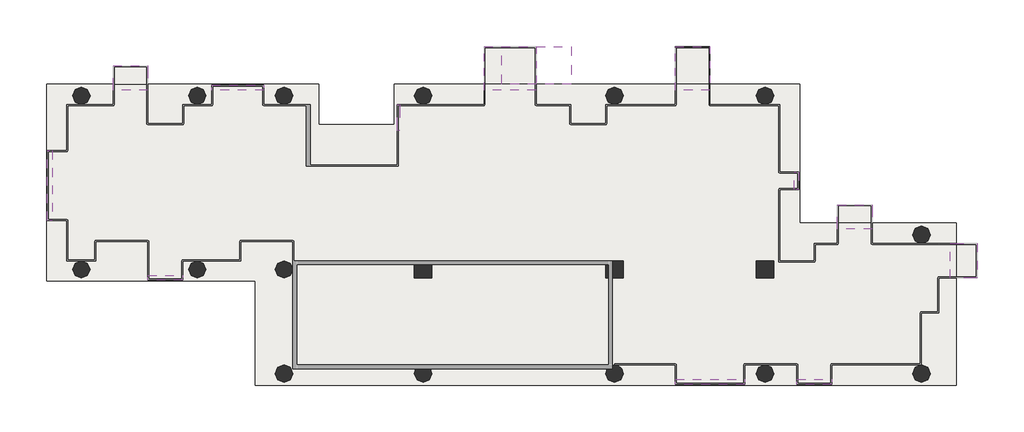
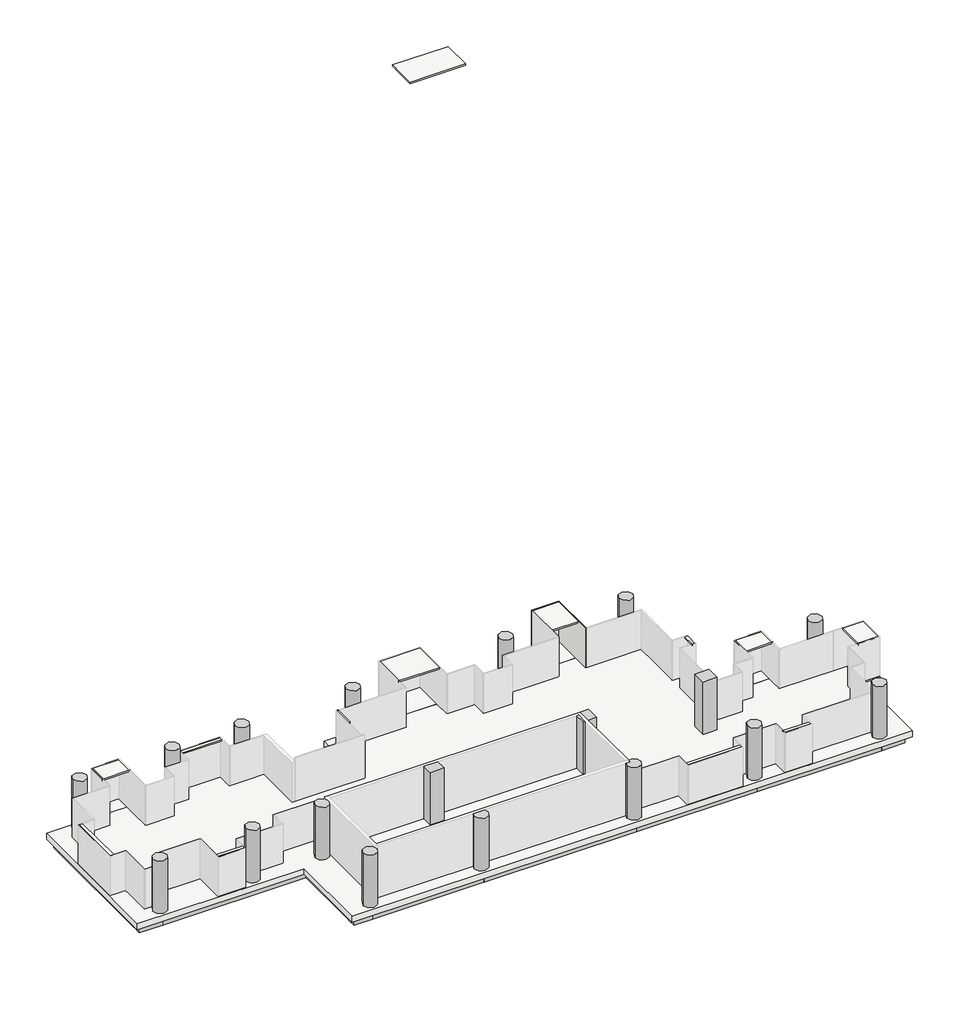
# One storey, part 2 of 2: 40 slabs, 25 beams, 18 columns, 2 walls.
"""IFC4 building model written with IfcOpenShell, lengths in millimetres."""

from ifc_helpers import new_model, si_unit, point, frame, frame_2d, origin, place, context, project, spatial, polyline, circle_curve, trimmed, segment, composite_curve, outline, extrude, faceted_brep, transform, mapped, element, save
from ifc_brep_helpers import plane_surface, cylinder_surface, advanced_brep
from components import ajn_arc_ossature_rec_ba_700x600_5242ffbb, ajn_arc_ossature_rec_ba_700x600_213c05e2, ajn_arc_ossature_rec_ba_700x600_4d623bda, ajn_arc_ossature_rec_ba_700x600_c2a8f1af, ajn_arc_ossature_rec_ba_700x600_b2f97811, ajn_arc_ossature_rec_ba_700x600_e688680c, ajn_arc_ossature_rec_ba_700x600_8adee879, ajn_arc_ossature_rec_ba_700x600_6677e51c, ajn_arc_ossature_rec_ba_700x600_60e35d56, ajn_arc_ossature_rec_ba_700x600_9ae0f913, ajn_arc_ossature_rec_ba_700x600_5c14351b, ajn_arc_ossature_rec_ba_700x600_e883967f, ajn_arc_ossature_rec_ba_700x600_0984b03c, ajn_arc_ossature_rec_ba_700x600_78f846f2, ajn_arc_ossature_rec_ba_700x600_e869caa8, ajn_arc_ossature_rec_ba_700x600_0388eb48, ajn_arc_ossature_rec_ba_700x600_e143517c, ajn_arc_ossature_rec_ba_700x600_758f1bfa, ajn_arc_ossature_rec_ba_700x600_64ba80e1

model = new_model("IFC4")

# Units and contexts
model_context = context("Model", 3, world=origin())
ifc_project = project(units=[si_unit("LENGTHUNIT", "METRE", prefix="MILLI")], contexts=[model_context])

# Site, building, storey
site = spatial("IfcSite", under=ifc_project)
building = spatial("IfcBuilding", under=site)
storey = spatial("IfcBuildingStorey", under=building, Name="TW-L 06", Elevation=20799.9999686)

# Beams
placement = place(None, origin())
ajn_arc_ossature_rec_ba_700x600_shape = ajn_arc_ossature_rec_ba_700x600_5242ffbb(model_context)
element("IfcBeam", 1, ObjectType="AJN-ARC-OSSATURE REC-BA : 700x600", at=placement, inside=storey, context=model_context, shape_type="MappedRepresentation", body=[
    mapped(ajn_arc_ossature_rec_ba_700x600_shape, transform((119350.0, 39300.0, 20249.9999686), x_axis=(-1.0, 0.0, 0.0), y_axis=(0.0, -1.0, 0.0), z_axis=(0.0, 0.0, 1.0))),
])
ajn_arc_ossature_rec_ba_700x600_2_shape = ajn_arc_ossature_rec_ba_700x600_213c05e2(model_context)
element("IfcBeam", 2, ObjectType="AJN-ARC-OSSATURE REC-BA : 700x600", at=placement, inside=storey, context=model_context, shape_type="MappedRepresentation", body=[
    mapped(ajn_arc_ossature_rec_ba_700x600_2_shape, transform((100900.0, 34800.0, 20249.9999686), x_axis=(0.0, -1.0, 0.0), y_axis=(1.0, 0.0, 0.0), z_axis=(0.0, 0.0, 1.0))),
])
ajn_arc_ossature_rec_ba_700x600_3_shape = ajn_arc_ossature_rec_ba_700x600_4d623bda(model_context)
element("IfcBeam", 3, ObjectType="AJN-ARC-OSSATURE REC-BA : 700x600", at=placement, inside=storey, context=model_context, shape_type="MappedRepresentation", body=[
    mapped(ajn_arc_ossature_rec_ba_700x600_3_shape, transform((112150.0, 24900.0, 20249.9999686), x_axis=(1.0, 0.0, 0.0), y_axis=(0.0, 1.0, 0.0), z_axis=(0.0, 0.0, 1.0))),
])
ajn_arc_ossature_rec_ba_700x600_4_shape = ajn_arc_ossature_rec_ba_700x600_c2a8f1af(model_context)
element("IfcBeam", 4, ObjectType="AJN-ARC-OSSATURE REC-BA : 700x600", at=placement, inside=storey, context=model_context, shape_type="MappedRepresentation", body=[
    mapped(ajn_arc_ossature_rec_ba_700x600_4_shape, transform((116200.0, 24900.0, 20249.9999686), x_axis=(1.0, 0.0, 0.0), y_axis=(0.0, 1.0, 0.0), z_axis=(0.0, 0.0, 1.0))),
])
ajn_arc_ossature_rec_ba_700x600_5_shape = ajn_arc_ossature_rec_ba_700x600_b2f97811(model_context)
element("IfcBeam", 5, ObjectType="AJN-ARC-OSSATURE REC-BA : 700x600", at=placement, inside=storey, context=model_context, shape_type="MappedRepresentation", body=[
    mapped(ajn_arc_ossature_rec_ba_700x600_5_shape, transform((106900.0, 30300.0, 20249.9999686), x_axis=(1.0, 0.0, 0.0), y_axis=(0.0, 1.0, 0.0), z_axis=(0.0, 0.0, 1.0))),
])
ajn_arc_ossature_rec_ba_700x600_6_shape = ajn_arc_ossature_rec_ba_700x600_e688680c(model_context)
element("IfcBeam", 6, ObjectType="AJN-ARC-OSSATURE REC-BA : 700x600", at=placement, inside=storey, context=model_context, shape_type="MappedRepresentation", body=[
    mapped(ajn_arc_ossature_rec_ba_700x600_6_shape, transform((111700.0, 27600.0, 20249.9999686), x_axis=(0.0, -1.0, 0.0), y_axis=(1.0, 0.0, 0.0), z_axis=(0.0, 0.0, 1.0))),
])
ajn_arc_ossature_rec_ba_700x600_7_shape = ajn_arc_ossature_rec_ba_700x600_8adee879(model_context)
element("IfcBeam", 7, ObjectType="AJN-ARC-OSSATURE REC-BA : 700x600", at=placement, inside=storey, context=model_context, shape_type="MappedRepresentation", body=[
    mapped(ajn_arc_ossature_rec_ba_700x600_7_shape, transform((124750.0, 24900.0, 20249.9999686), x_axis=(1.0, 0.0, 0.0), y_axis=(0.0, 1.0, 0.0), z_axis=(0.0, 0.0, 1.0))),
])
element("IfcBeam", 8, ObjectType="AJN-ARC-OSSATURE REC-BA : 700x600", at=placement, inside=storey, context=model_context, shape_type="MappedRepresentation", body=[
    mapped(ajn_arc_ossature_rec_ba_700x600_7_shape, transform((124750.0, 39300.0, 20249.9999686), x_axis=(-1.0, 0.0, 0.0), y_axis=(0.0, -1.0, 0.0), z_axis=(0.0, 0.0, 1.0))),
])
ajn_arc_ossature_rec_ba_700x600_8_shape = ajn_arc_ossature_rec_ba_700x600_6677e51c(model_context)
element("IfcBeam", 9, ObjectType="AJN-ARC-OSSATURE REC-BA : 700x600", at=placement, inside=storey, context=model_context, shape_type="MappedRepresentation", body=[
    mapped(ajn_arc_ossature_rec_ba_700x600_8_shape, transform((133600.0, 24900.0, 20249.9999686), x_axis=(1.0, 0.0, 0.0), y_axis=(0.0, 1.0, 0.0), z_axis=(0.0, 0.0, 1.0))),
])
ajn_arc_ossature_rec_ba_700x600_9_shape = ajn_arc_ossature_rec_ba_700x600_60e35d56(model_context)
element("IfcBeam", 10, ObjectType="AJN-ARC-OSSATURE REC-BA : 700x600", at=placement, inside=storey, context=model_context, shape_type="MappedRepresentation", body=[
    mapped(ajn_arc_ossature_rec_ba_700x600_9_shape, transform((141550.0, 24900.0, 20249.9999686), x_axis=(1.0, 0.0, 0.0), y_axis=(0.0, 1.0, 0.0), z_axis=(0.0, 0.0, 1.0))),
])
ajn_arc_ossature_rec_ba_700x600_10_shape = ajn_arc_ossature_rec_ba_700x600_9ae0f913(model_context)
element("IfcBeam", 11, ObjectType="AJN-ARC-OSSATURE REC-BA : 700x600", at=placement, inside=storey, context=model_context, shape_type="MappedRepresentation", body=[
    mapped(ajn_arc_ossature_rec_ba_700x600_10_shape, transform((146200.0, 24900.0, 20249.9999686), x_axis=(1.0, 0.0, 0.0), y_axis=(0.0, 1.0, 0.0), z_axis=(0.0, 0.0, 1.0))),
])
element("IfcBeam", 12, ObjectType="AJN-ARC-OSSATURE REC-BA : 700x600", at=placement, inside=storey, context=model_context, shape_type="MappedRepresentation", body=[
    mapped(ajn_arc_ossature_rec_ba_700x600_10_shape, transform((101500.0, 39300.0, 20249.9999686), x_axis=(-1.0, 0.0, 0.0), y_axis=(0.0, -1.0, 0.0), z_axis=(0.0, 0.0, 1.0))),
])
ajn_arc_ossature_rec_ba_700x600_11_shape = ajn_arc_ossature_rec_ba_700x600_5c14351b(model_context)
element("IfcBeam", 13, ObjectType="AJN-ARC-OSSATURE REC-BA : 700x600", at=placement, inside=storey, context=model_context, shape_type="MappedRepresentation", body=[
    mapped(ajn_arc_ossature_rec_ba_700x600_11_shape, transform((146800.0, 28500.0, 20249.9999686), x_axis=(0.0, 1.0, 0.0), y_axis=(-1.0, 0.0, 0.0), z_axis=(0.0, 0.0, 1.0))),
])
element("IfcBeam", 14, ObjectType="AJN-ARC-OSSATURE REC-BA : 700x600", at=placement, inside=storey, context=model_context, shape_type="MappedRepresentation", body=[
    mapped(ajn_arc_ossature_rec_ba_700x600_11_shape, transform((138700.0, 35700.0, 20249.9999686), x_axis=(0.0, 1.0, 0.0), y_axis=(-1.0, 0.0, 0.0), z_axis=(0.0, 0.0, 1.0))),
])
ajn_arc_ossature_rec_ba_700x600_12_shape = ajn_arc_ossature_rec_ba_700x600_e883967f(model_context)
element("IfcBeam", 15, ObjectType="AJN-ARC-OSSATURE REC-BA : 700x600", at=placement, inside=storey, context=model_context, shape_type="MappedRepresentation", body=[
    mapped(ajn_arc_ossature_rec_ba_700x600_12_shape, transform((146200.0, 32100.0, 20249.9999686), x_axis=(-1.0, 0.0, 0.0), y_axis=(0.0, -1.0, 0.0), z_axis=(0.0, 0.0, 1.0))),
])
element("IfcBeam", 16, ObjectType="AJN-ARC-OSSATURE REC-BA : 700x600", at=placement, inside=storey, context=model_context, shape_type="MappedRepresentation", body=[
    mapped(ajn_arc_ossature_rec_ba_700x600_12_shape, transform((138100.0, 39300.0, 20249.9999686), x_axis=(-1.0, 0.0, 0.0), y_axis=(0.0, -1.0, 0.0), z_axis=(0.0, 0.0, 1.0))),
])
element("IfcBeam", 17, ObjectType="AJN-ARC-OSSATURE REC-BA : 700x600", at=placement, inside=storey, context=model_context, shape_type="MappedRepresentation", body=[
    mapped(ajn_arc_ossature_rec_ba_700x600_12_shape, transform((113200.0, 39300.0, 20249.9999686), x_axis=(-1.0, 0.0, 0.0), y_axis=(0.0, -1.0, 0.0), z_axis=(0.0, 0.0, 1.0))),
])
element("IfcBeam", 18, ObjectType="AJN-ARC-OSSATURE REC-BA : 700x600", at=placement, inside=storey, context=model_context, shape_type="MappedRepresentation", body=[
    mapped(ajn_arc_ossature_rec_ba_700x600_12_shape, transform((101500.0, 30300.0, 20249.9999686), x_axis=(1.0, 0.0, 0.0), y_axis=(0.0, 1.0, 0.0), z_axis=(0.0, 0.0, 1.0))),
])
ajn_arc_ossature_rec_ba_700x600_13_shape = ajn_arc_ossature_rec_ba_700x600_0984b03c(model_context)
element("IfcBeam", 19, ObjectType="AJN-ARC-OSSATURE REC-BA : 700x600", at=placement, inside=storey, context=model_context, shape_type="MappedRepresentation", body=[
    mapped(ajn_arc_ossature_rec_ba_700x600_13_shape, transform((142150.0, 32100.0, 20249.9999686), x_axis=(-1.0, 0.0, 0.0), y_axis=(0.0, -1.0, 0.0), z_axis=(0.0, 0.0, 1.0))),
])
ajn_arc_ossature_rec_ba_700x600_14_shape = ajn_arc_ossature_rec_ba_700x600_78f846f2(model_context)
element("IfcBeam", 20, ObjectType="AJN-ARC-OSSATURE REC-BA : 700x600", at=placement, inside=storey, context=model_context, shape_type="MappedRepresentation", body=[
    mapped(ajn_arc_ossature_rec_ba_700x600_14_shape, transform((133600.0, 39300.0, 20249.9999686), x_axis=(-1.0, 0.0, 0.0), y_axis=(0.0, -1.0, 0.0), z_axis=(0.0, 0.0, 1.0))),
])
ajn_arc_ossature_rec_ba_700x600_15_shape = ajn_arc_ossature_rec_ba_700x600_e869caa8(model_context)
element("IfcBeam", 21, ObjectType="AJN-ARC-OSSATURE REC-BA : 700x600", at=placement, inside=storey, context=model_context, shape_type="MappedRepresentation", body=[
    mapped(ajn_arc_ossature_rec_ba_700x600_15_shape, transform((118900.0, 38250.0, 20249.9999686), x_axis=(0.0, -1.0, 0.0), y_axis=(1.0, 0.0, 0.0), z_axis=(0.0, 0.0, 1.0))),
])
ajn_arc_ossature_rec_ba_700x600_16_shape = ajn_arc_ossature_rec_ba_700x600_0388eb48(model_context)
element("IfcBeam", 22, ObjectType="AJN-ARC-OSSATURE REC-BA : 700x600", at=placement, inside=storey, context=model_context, shape_type="MappedRepresentation", body=[
    mapped(ajn_arc_ossature_rec_ba_700x600_16_shape, transform((110350.0, 39300.0, 20249.9999686), x_axis=(-1.0, 0.0, 0.0), y_axis=(0.0, -1.0, 0.0), z_axis=(0.0, 0.0, 1.0))),
])
ajn_arc_ossature_rec_ba_700x600_17_shape = ajn_arc_ossature_rec_ba_700x600_e143517c(model_context)
element("IfcBeam", 23, ObjectType="AJN-ARC-OSSATURE REC-BA : 700x600", at=placement, inside=storey, context=model_context, shape_type="MappedRepresentation", body=[
    mapped(ajn_arc_ossature_rec_ba_700x600_17_shape, transform((105100.0, 39300.0, 20249.9999686), x_axis=(-1.0, 0.0, 0.0), y_axis=(0.0, -1.0, 0.0), z_axis=(0.0, 0.0, 1.0))),
])
ajn_arc_ossature_rec_ba_700x600_18_shape = ajn_arc_ossature_rec_ba_700x600_758f1bfa(model_context)
element("IfcBeam", 24, ObjectType="AJN-ARC-OSSATURE REC-BA : 700x600", at=placement, inside=storey, context=model_context, shape_type="MappedRepresentation", body=[
    mapped(ajn_arc_ossature_rec_ba_700x600_18_shape, transform((116350.0, 37200.0, 20249.9999686), x_axis=(-1.0, 0.0, 0.0), y_axis=(0.0, -1.0, 0.0), z_axis=(0.0, 0.0, 1.0))),
])
ajn_arc_ossature_rec_ba_700x600_19_shape = ajn_arc_ossature_rec_ba_700x600_64ba80e1(model_context)
element("IfcBeam", 25, ObjectType="AJN-ARC-OSSATURE REC-BA : 700x600", at=placement, inside=storey, context=model_context, shape_type="MappedRepresentation", body=[
    mapped(ajn_arc_ossature_rec_ba_700x600_19_shape, transform((113800.0, 38250.0, 20249.9999686), x_axis=(0.0, 1.0, 0.0), y_axis=(-1.0, 0.0, 0.0), z_axis=(0.0, 0.0, 1.0))),
])

# Columns
element("IfcColumn", 26, ObjectType="AJN-ARC-POTEAU CIRCULAIRE : ø90", at=placement, inside=storey, context=model_context, shape_type="SweptSolid", body=[
    extrude(outline(composite_curve([segment(trimmed(circle_curve(frame_2d((102100.0, 39300.0)), 450.0), [point((101650.0, 39300.0))], [point((102550.0, 39300.0))], False, "CARTESIAN"), True, "CONTINUOUS"), segment(trimmed(circle_curve(frame_2d((102100.0, 39300.0)), 450.0), [point((102550.0, 39300.0))], [point((101650.0, 39300.0))], False, "CARTESIAN"), True, "CONTINUOUS")], self_intersect=False)), frame((0.0, 0.0, 20799.9999686), z_axis=(0.0, 0.0, 1.0), x_axis=(1.0, 0.0, 0.0)), (0.0, 0.0, 1.0), 3600.0),
])
element("IfcColumn", 27, ObjectType="AJN-ARC-POTEAU CIRCULAIRE : ø90", at=placement, inside=storey, context=model_context, shape_type="SweptSolid", body=[
    extrude(outline(composite_curve([segment(trimmed(circle_curve(frame_2d((102100.0, 30300.0)), 450.0), [point((101650.0, 30300.0))], [point((102550.0, 30300.0))], False, "CARTESIAN"), True, "CONTINUOUS"), segment(trimmed(circle_curve(frame_2d((102100.0, 30300.0)), 450.0), [point((102550.0, 30300.0))], [point((101650.0, 30300.0))], False, "CARTESIAN"), True, "CONTINUOUS")], self_intersect=False)), frame((0.0, 0.0, 20799.9999686), z_axis=(0.0, 0.0, 1.0), x_axis=(1.0, 0.0, 0.0)), (0.0, 0.0, 1.0), 3600.0),
])
element("IfcColumn", 28, ObjectType="AJN-ARC-POTEAU CIRCULAIRE : ø90", at=placement, inside=storey, context=model_context, shape_type="SweptSolid", body=[
    extrude(outline(composite_curve([segment(trimmed(circle_curve(frame_2d((108100.0, 30300.0)), 450.0), [point((107650.0, 30300.0))], [point((108550.0, 30300.0))], False, "CARTESIAN"), True, "CONTINUOUS"), segment(trimmed(circle_curve(frame_2d((108100.0, 30300.0)), 450.0), [point((108550.0, 30300.0))], [point((107650.0, 30300.0))], False, "CARTESIAN"), True, "CONTINUOUS")], self_intersect=False)), frame((0.0, 0.0, 20799.9999686), z_axis=(0.0, 0.0, 1.0), x_axis=(1.0, 0.0, 0.0)), (0.0, 0.0, 1.0), 3600.0),
])
element("IfcColumn", 29, ObjectType="AJN-ARC-POTEAU CIRCULAIRE : ø90", at=placement, inside=storey, context=model_context, shape_type="SweptSolid", body=[
    extrude(outline(composite_curve([segment(trimmed(circle_curve(frame_2d((108100.0, 39300.0)), 450.0), [point((107650.0, 39300.0))], [point((108550.0, 39300.0))], False, "CARTESIAN"), True, "CONTINUOUS"), segment(trimmed(circle_curve(frame_2d((108100.0, 39300.0)), 450.0), [point((108550.0, 39300.0))], [point((107650.0, 39300.0))], False, "CARTESIAN"), True, "CONTINUOUS")], self_intersect=False)), frame((0.0, 0.0, 20799.9999686), z_axis=(0.0, 0.0, 1.0), x_axis=(1.0, 0.0, 0.0)), (0.0, 0.0, 1.0), 3600.0),
])
element("IfcColumn", 30, ObjectType="AJN-ARC-POTEAU CIRCULAIRE : ø90", at=placement, inside=storey, context=model_context, shape_type="SweptSolid", body=[
    extrude(outline(composite_curve([segment(trimmed(circle_curve(frame_2d((112600.0, 39300.0)), 450.0), [point((112150.0, 39300.0))], [point((113050.0, 39300.0))], False, "CARTESIAN"), True, "CONTINUOUS"), segment(trimmed(circle_curve(frame_2d((112600.0, 39300.0)), 450.0), [point((113050.0, 39300.0))], [point((112150.0, 39300.0))], False, "CARTESIAN"), True, "CONTINUOUS")], self_intersect=False)), frame((0.0, 0.0, 20799.9999686), z_axis=(0.0, 0.0, 1.0), x_axis=(1.0, 0.0, 0.0)), (0.0, 0.0, 1.0), 3600.0),
])
element("IfcColumn", 31, ObjectType="AJN-ARC-POTEAU CIRCULAIRE : ø90", at=placement, inside=storey, context=model_context, shape_type="SweptSolid", body=[
    extrude(outline(composite_curve([segment(trimmed(circle_curve(frame_2d((112600.0, 30300.0)), 450.0), [point((112150.0, 30300.0))], [point((113050.0, 30300.0))], False, "CARTESIAN"), True, "CONTINUOUS"), segment(trimmed(circle_curve(frame_2d((112600.0, 30300.0)), 450.0), [point((113050.0, 30300.0))], [point((112150.0, 30300.0))], False, "CARTESIAN"), True, "CONTINUOUS")], self_intersect=False)), frame((0.0, 0.0, 20799.9999686), z_axis=(0.0, 0.0, 1.0), x_axis=(1.0, 0.0, 0.0)), (0.0, 0.0, 1.0), 3600.0),
])
element("IfcColumn", 32, ObjectType="AJN-ARC-POTEAU CIRCULAIRE : ø90", at=placement, inside=storey, context=model_context, shape_type="SweptSolid", body=[
    extrude(outline(composite_curve([segment(trimmed(circle_curve(frame_2d((112600.0, 24900.0)), 450.0), [point((112150.0, 24900.0))], [point((113050.0, 24900.0))], False, "CARTESIAN"), True, "CONTINUOUS"), segment(trimmed(circle_curve(frame_2d((112600.0, 24900.0)), 450.0), [point((113050.0, 24900.0))], [point((112150.0, 24900.0))], False, "CARTESIAN"), True, "CONTINUOUS")], self_intersect=False)), frame((0.0, 0.0, 20799.9999686), z_axis=(0.0, 0.0, 1.0), x_axis=(1.0, 0.0, 0.0)), (0.0, 0.0, 1.0), 3600.0),
])
element("IfcColumn", 33, ObjectType="AJN-ARC-POTEAU CIRCULAIRE : ø90", at=placement, inside=storey, context=model_context, shape_type="SweptSolid", body=[
    extrude(outline(composite_curve([segment(trimmed(circle_curve(frame_2d((119800.0, 24900.0)), 450.0), [point((120250.0, 24900.0))], [point((119350.0, 24900.0))], False, "CARTESIAN"), True, "CONTINUOUS"), segment(trimmed(circle_curve(frame_2d((119800.0, 24900.0)), 450.0), [point((119350.0, 24900.0))], [point((119425.8342613, 25150.0))], False, "CARTESIAN"), True, "CONTINUOUS"), segment(polyline([(119425.8342613, 25150.0), (120174.1657387, 25150.0)]), True, "CONTINUOUS"), segment(trimmed(circle_curve(frame_2d((119800.0, 24900.0)), 450.0), [point((120174.1657387, 25150.0))], [point((120250.0, 24900.0))], False, "CARTESIAN"), True, "CONTINUOUS")], self_intersect=False)), frame((0.0, 0.0, 20799.9999686), z_axis=(0.0, 0.0, 1.0), x_axis=(1.0, 0.0, 0.0)), (0.0, 0.0, 1.0), 3600.0),
])
element("IfcColumn", 34, ObjectType="AJN-ARC-POTEAU CIRCULAIRE : ø90", at=placement, inside=storey, context=model_context, shape_type="SweptSolid", body=[
    extrude(outline(composite_curve([segment(trimmed(circle_curve(frame_2d((119800.0, 39300.0)), 450.0), [point((119350.0, 39300.0))], [point((120250.0, 39300.0))], False, "CARTESIAN"), True, "CONTINUOUS"), segment(trimmed(circle_curve(frame_2d((119800.0, 39300.0)), 450.0), [point((120250.0, 39300.0))], [point((119350.0, 39300.0))], False, "CARTESIAN"), True, "CONTINUOUS")], self_intersect=False)), frame((0.0, 0.0, 20799.9999686), z_axis=(0.0, 0.0, 1.0), x_axis=(1.0, 0.0, 0.0)), (0.0, 0.0, 1.0), 3600.0),
])
element("IfcColumn", 35, ObjectType="AJN-ARC-POTEAU CIRCULAIRE : ø90", at=placement, inside=storey, context=model_context, shape_type="SweptSolid", body=[
    extrude(outline(composite_curve([segment(trimmed(circle_curve(frame_2d((129700.0, 39300.0)), 450.0), [point((129250.0, 39300.0))], [point((130150.0, 39300.0))], False, "CARTESIAN"), True, "CONTINUOUS"), segment(trimmed(circle_curve(frame_2d((129700.0, 39300.0)), 450.0), [point((130150.0, 39300.0))], [point((129250.0, 39300.0))], False, "CARTESIAN"), True, "CONTINUOUS")], self_intersect=False)), frame((0.0, 0.0, 20799.9999686), z_axis=(0.0, 0.0, 1.0), x_axis=(1.0, 0.0, 0.0)), (0.0, 0.0, 1.0), 3600.0),
])
element("IfcColumn", 36, ObjectType="AJN-ARC-POTEAU CIRCULAIRE : ø90", at=placement, inside=storey, context=model_context, shape_type="SweptSolid", body=[
    extrude(outline(composite_curve([segment(trimmed(circle_curve(frame_2d((129700.0, 24900.0)), 450.0), [point((130150.0, 24900.0))], [point((129250.0, 24900.0))], False, "CARTESIAN"), True, "CONTINUOUS"), segment(trimmed(circle_curve(frame_2d((129700.0, 24900.0)), 450.0), [point((129250.0, 24900.0))], [point((129325.8342613, 25150.0))], False, "CARTESIAN"), True, "CONTINUOUS"), segment(polyline([(129325.8342613, 25150.0), (129600.0, 25150.0), (129600.0, 25338.7482194)]), True, "CONTINUOUS"), segment(trimmed(circle_curve(frame_2d((129700.0, 24900.0)), 450.0), [point((129600.0, 25338.7482194))], [point((130150.0, 24900.0))], False, "CARTESIAN"), True, "CONTINUOUS")], self_intersect=False)), frame((0.0, 0.0, 20799.9999686), z_axis=(0.0, 0.0, 1.0), x_axis=(1.0, 0.0, 0.0)), (0.0, 0.0, 1.0), 3600.0),
])
element("IfcColumn", 37, ObjectType="AJN-ARC-POTEAU CIRCULAIRE : ø90", at=placement, inside=storey, context=model_context, shape_type="SweptSolid", body=[
    extrude(outline(composite_curve([segment(trimmed(circle_curve(frame_2d((137500.0, 39300.0)), 450.0), [point((137050.0, 39300.0))], [point((137950.0, 39300.0))], False, "CARTESIAN"), True, "CONTINUOUS"), segment(trimmed(circle_curve(frame_2d((137500.0, 39300.0)), 450.0), [point((137950.0, 39300.0))], [point((137050.0, 39300.0))], False, "CARTESIAN"), True, "CONTINUOUS")], self_intersect=False)), frame((0.0, 0.0, 20799.9999686), z_axis=(0.0, 0.0, 1.0), x_axis=(1.0, 0.0, 0.0)), (0.0, 0.0, 1.0), 3600.0),
])
element("IfcColumn", 38, ObjectType="AJN-ARC-POTEAU CIRCULAIRE : ø90", at=placement, inside=storey, context=model_context, shape_type="SweptSolid", body=[
    extrude(outline(composite_curve([segment(trimmed(circle_curve(frame_2d((137500.0, 24900.0)), 450.0), [point((137050.0, 24900.0))], [point((137950.0, 24900.0))], False, "CARTESIAN"), True, "CONTINUOUS"), segment(trimmed(circle_curve(frame_2d((137500.0, 24900.0)), 450.0), [point((137950.0, 24900.0))], [point((137050.0, 24900.0))], False, "CARTESIAN"), True, "CONTINUOUS")], self_intersect=False)), frame((0.0, 0.0, 20799.9999686), z_axis=(0.0, 0.0, 1.0), x_axis=(1.0, 0.0, 0.0)), (0.0, 0.0, 1.0), 3600.0),
])
element("IfcColumn", 39, ObjectType="AJN-ARC-POTEAU CIRCULAIRE : ø90", at=placement, inside=storey, context=model_context, shape_type="SweptSolid", body=[
    extrude(outline(composite_curve([segment(trimmed(circle_curve(frame_2d((145600.0, 24900.0)), 450.0), [point((145150.0, 24900.0))], [point((146050.0, 24900.0))], False, "CARTESIAN"), True, "CONTINUOUS"), segment(trimmed(circle_curve(frame_2d((145600.0, 24900.0)), 450.0), [point((146050.0, 24900.0))], [point((145150.0, 24900.0))], False, "CARTESIAN"), True, "CONTINUOUS")], self_intersect=False)), frame((0.0, 0.0, 20799.9999686), z_axis=(0.0, 0.0, 1.0), x_axis=(1.0, 0.0, 0.0)), (0.0, 0.0, 1.0), 3600.0),
])
element("IfcColumn", 40, ObjectType="AJN-ARC-POTEAU CIRCULAIRE : ø90", at=placement, inside=storey, context=model_context, shape_type="AdvancedBrep", body=[
    advanced_brep(
    [(145150.0, 32100.0, 20799.9999686), (146050.0, 32100.0, 20799.9999686), (145638.6089983, 31651.6593424, 20799.9999686), (145561.3910017, 31651.6593424, 20799.9999686), (145150.0, 32100.0, 24399.9999686), (146050.0, 32100.0, 24399.9999686), (145561.3910017, 31651.6593424, 23499.9999686), (145638.6089983, 31651.6593424, 23499.9999686)],
    [
        (0, 1, circle_curve(frame((145600.0, 32100.0, 20799.9999686), z_axis=(0.0, 0.0, -1.0), x_axis=(1.0, 0.0, 0.0)), 450.0)),
        (1, 2, circle_curve(frame((145600.0, 32100.0, 20799.9999686), z_axis=(0.0, 0.0, -1.0), x_axis=(1.0, 0.0, 0.0)), 450.0)),
        (2, 3),
        (3, 0, circle_curve(frame((145600.0, 32100.0, 20799.9999686), z_axis=(0.0, 0.0, -1.0), x_axis=(1.0, 0.0, 0.0)), 450.0)),
        (0, 4),
        (4, 5, circle_curve(frame((145600.0, 32100.0, 24399.9999686), z_axis=(0.0, 0.0, -1.0), x_axis=(1.0, 0.0, 0.0)), 450.0)),
        (5, 1),
        (5, 4, circle_curve(frame((145600.0, 32100.0, 24399.9999686), z_axis=(0.0, 0.0, -1.0), x_axis=(1.0, 0.0, 0.0)), 450.0)),
        (3, 6),
        (6, 7, circle_curve(frame((145600.0, 32100.0, 23499.9999686), z_axis=(0.0, 0.0, 1.0), x_axis=(1.0, 0.0, 0.0)), 450.0)),
        (7, 2),
        (7, 6),
    ],
    [
        plane_surface(frame((146050.0, 32100.0, 20799.9999686), z_axis=(0.0, 0.0, -1.0), x_axis=(0.0, -1.0, 0.0))),
        cylinder_surface(frame((145600.0, 32100.0, 20799.9999686), z_axis=(0.0, 0.0, 1.0), x_axis=(1.0, 0.0, 0.0)), 450.0),
        plane_surface(frame((146050.0, 32100.0, 24399.9999686), z_axis=(0.0, 0.0, 1.0), x_axis=(0.0, 1.0, 0.0))),
        plane_surface(frame((146497.681474, 31651.6593424, 20799.9999686), z_axis=(0.0, -1.0, 0.0), x_axis=(-1.0, 0.0, 0.0))),
        plane_surface(frame((143050.0855834, 31651.6593424, 23499.9999686), z_axis=(0.0, 0.0, -1.0), x_axis=(0.0, -1.0, 0.0))),
    ],
    [
        (0, [[1, 2, 3, 4]]),
        (1, [[-1, 5, 6, 7]]),
        (1, [[-7, 8, -5, -4, 9, 10, 11, -2]]),
        (2, [[-6, -8]]),
        (3, [[12, -9, -3, -11]]),
        (4, [[-12, -10]]),
    ],
),
])
element("IfcColumn", 41, ObjectType="AJN-ARC-POTEAU RECTANGULAIRE : 900 mm x 900 mm", at=placement, inside=storey, context=model_context, shape_type="SweptSolid", body=[
    extrude(outline(polyline([(137950.0, 30750.0), (137950.0, 29850.0), (137050.0, 29850.0), (137050.0, 30750.0), (137950.0, 30750.0)])), frame((0.0, 0.0, 20799.9999686), z_axis=(0.0, 0.0, 1.0), x_axis=(1.0, 0.0, 0.0)), (0.0, 0.0, 1.0), 3600.0),
])
element("IfcColumn", 42, ObjectType="AJN-ARC-POTEAU RECTANGULAIRE : 900 mm x 900 mm", at=placement, inside=storey, context=model_context, shape_type="SweptSolid", body=[
    extrude(outline(polyline([(129400.0, 29850.0), (129250.0, 29850.0), (129250.0, 30550.0), (129400.0, 30550.0), (129400.0, 29850.0)])), frame((0.0, 0.0, 20799.9999686), z_axis=(0.0, 0.0, 1.0), x_axis=(1.0, 0.0, 0.0)), (0.0, 0.0, 1.0), 3600.0),
    extrude(outline(polyline([(130150.0, 30750.0), (130150.0, 29850.0), (129600.0, 29850.0), (129600.0, 30750.0), (130150.0, 30750.0)])), frame((0.0, 0.0, 20799.9999686), z_axis=(0.0, 0.0, 1.0), x_axis=(1.0, 0.0, 0.0)), (0.0, 0.0, 1.0), 3600.0),
])
element("IfcColumn", 43, ObjectType="AJN-ARC-POTEAU RECTANGULAIRE : 900 mm x 900 mm", at=placement, inside=storey, context=model_context, shape_type="SweptSolid", body=[
    extrude(outline(polyline([(120250.0, 29850.0), (119350.0, 29850.0), (119350.0, 30550.0), (120250.0, 30550.0), (120250.0, 29850.0)])), frame((0.0, 0.0, 20799.9999686), z_axis=(0.0, 0.0, 1.0), x_axis=(1.0, 0.0, 0.0)), (0.0, 0.0, 1.0), 3600.0),
])

# Slabs
element("IfcSlab", 44, ObjectType="AJN-ARC-SLAB-10cm", at=placement, inside=storey, context=model_context, shape_type="SweptSolid", body=[
    extrude(outline(polyline([(125650.0, 39900.0), (122950.0, 39900.0), (122950.0, 41850.0), (125650.0, 41850.0), (125650.0, 39900.0)])), frame((0.0, 0.0, 20699.9999686), z_axis=(0.0, 0.0, 1.0), x_axis=(1.0, 0.0, 0.0)), (0.0, 0.0, 1.0), 100.0),
])
element("IfcSlab", 45, ObjectType="AJN-ARC-SLAB-10cm", at=placement, inside=storey, context=model_context, shape_type="SweptSolid", body=[
    extrude(outline(polyline([(148497.681474, 29851.6593424), (147400.0, 29851.6593424), (147400.0, 31651.6593424), (148497.681474, 31651.6593424), (148497.681474, 29851.6593424)])), frame((0.0, 0.0, 20699.9999686), z_axis=(0.0, 0.0, 1.0), x_axis=(1.0, 0.0, 0.0)), (0.0, 0.0, 1.0), 100.0),
])
element("IfcSlab", 46, ObjectType="AJN-ARC-SLAB-10cm", at=placement, inside=storey, context=model_context, shape_type="SweptSolid", body=[
    extrude(outline(polyline([(105550.0, 39900.0), (103750.0, 39900.0), (103750.0, 40850.0), (105550.0, 40850.0), (105550.0, 39900.0)])), frame((0.0, 0.0, 20699.9999686), z_axis=(0.0, 0.0, 1.0), x_axis=(1.0, 0.0, 0.0)), (0.0, 0.0, 1.0), 100.0),
])
element("IfcSlab", 47, ObjectType="AJN-ARC-SLAB-10cm", at=placement, inside=storey, context=model_context, shape_type="SweptSolid", body=[
    extrude(outline(polyline([(143050.0855834, 32700.0), (141250.0855834, 32700.0), (141250.0855834, 33651.6593424), (143050.0855834, 33651.6593424), (143050.0855834, 32700.0)])), frame((0.0, 0.0, 20699.9999686), z_axis=(0.0, 0.0, 1.0), x_axis=(1.0, 0.0, 0.0)), (0.0, 0.0, 1.0), 100.0),
])
element("IfcSlab", 48, ObjectType="AJN-ARC-SLAB-10cm", at=placement, inside=storey, context=model_context, shape_type="SweptSolid", body=[
    extrude(outline(polyline([(134650.0, 39900.0), (132850.0, 39900.0), (132850.0, 41850.0), (134650.0, 41850.0), (134650.0, 39900.0)])), frame((0.0, 0.0, 20699.9999686), z_axis=(0.0, 0.0, 1.0), x_axis=(1.0, 0.0, 0.0)), (0.0, 0.0, 1.0), 100.0),
])
element("IfcSlab", 49, ObjectType="AJN-ARC-SLAB-10cm", at=placement, inside=storey, context=model_context, shape_type="SweptSolid", body=[
    extrude(outline(polyline([(134650.0, 39900.0), (132850.0, 39900.0), (132850.0, 41850.0), (134650.0, 41850.0), (134650.0, 39900.0)])), frame((0.0, 0.0, 20699.9999686), z_axis=(0.0, 0.0, 1.0), x_axis=(1.0, 0.0, 0.0)), (0.0, 0.0, 1.0), 100.0),
])
element("IfcSlab", 50, ObjectType="AJN-ARC-SLAB-10cm", at=placement, inside=storey, context=model_context, shape_type="SweptSolid", body=[
    extrude(outline(polyline([(134650.0, 39900.0), (132850.0, 39900.0), (132850.0, 41850.0), (134650.0, 41850.0), (134650.0, 39900.0)])), frame((0.0, 0.0, 20699.9999686), z_axis=(0.0, 0.0, 1.0), x_axis=(1.0, 0.0, 0.0)), (0.0, 0.0, 1.0), 100.0),
])
element("IfcSlab", 51, ObjectType="AJN-ARC-SLAB-10cm", at=placement, inside=storey, context=model_context, shape_type="SweptSolid", body=[
    extrude(outline(polyline([(134650.0, 39900.0), (132850.0, 39900.0), (132850.0, 41850.0), (134650.0, 41850.0), (134650.0, 39900.0)])), frame((0.0, 0.0, 20699.9999686), z_axis=(0.0, 0.0, 1.0), x_axis=(1.0, 0.0, 0.0)), (0.0, 0.0, 1.0), 100.0),
])
element("IfcSlab", 52, ObjectType="AJN-ARC-SLAB-10cm", at=placement, inside=storey, context=model_context, shape_type="SweptSolid", body=[
    extrude(outline(polyline([(134650.0, 39900.0), (132850.0, 39900.0), (132850.0, 41850.0), (134650.0, 41850.0), (134650.0, 39900.0)])), frame((0.0, 0.0, 20699.9999686), z_axis=(0.0, 0.0, 1.0), x_axis=(1.0, 0.0, 0.0)), (0.0, 0.0, 1.0), 100.0),
])
element("IfcSlab", 53, ObjectType="AJN-ARC-SLAB-10cm", at=placement, inside=storey, context=model_context, shape_type="SweptSolid", body=[
    extrude(outline(polyline([(134650.0, 39900.0), (132850.0, 39900.0), (132850.0, 41850.0), (134650.0, 41850.0), (134650.0, 39900.0)])), frame((0.0, 0.0, 20699.9999686), z_axis=(0.0, 0.0, 1.0), x_axis=(1.0, 0.0, 0.0)), (0.0, 0.0, 1.0), 100.0),
])
element("IfcSlab", 54, ObjectType="AJN-ARC-SLAB-10cm", at=placement, inside=storey, context=model_context, shape_type="SweptSolid", body=[
    extrude(outline(polyline([(134650.0, 39900.0), (132850.0, 39900.0), (132850.0, 41850.0), (134650.0, 41850.0), (134650.0, 39900.0)])), frame((0.0, 0.0, 20699.9999686), z_axis=(0.0, 0.0, 1.0), x_axis=(1.0, 0.0, 0.0)), (0.0, 0.0, 1.0), 100.0),
])
element("IfcSlab", 55, ObjectType="AJN-ARC-SLAB-10cm", at=placement, inside=storey, context=model_context, shape_type="SweptSolid", body=[
    extrude(outline(polyline([(134650.0, 39900.0), (132850.0, 39900.0), (132850.0, 41850.0), (134650.0, 41850.0), (134650.0, 39900.0)])), frame((0.0, 0.0, 20699.9999686), z_axis=(0.0, 0.0, 1.0), x_axis=(1.0, 0.0, 0.0)), (0.0, 0.0, 1.0), 100.0),
])
element("IfcSlab", 56, ObjectType="AJN-ARC-SLAB-10cm", at=placement, inside=storey, context=model_context, shape_type="SweptSolid", body=[
    extrude(outline(polyline([(134650.0, 39900.0), (132850.0, 39900.0), (132850.0, 41850.0), (134650.0, 41850.0), (134650.0, 39900.0)])), frame((0.0, 0.0, 20699.9999686), z_axis=(0.0, 0.0, 1.0), x_axis=(1.0, 0.0, 0.0)), (0.0, 0.0, 1.0), 100.0),
])
element("IfcSlab", 57, ObjectType="AJN-ARC-SLAB-10cm", at=placement, inside=storey, context=model_context, shape_type="SweptSolid", body=[
    extrude(outline(polyline([(134650.0, 39900.0), (132850.0, 39900.0), (132850.0, 41850.0), (134650.0, 41850.0), (134650.0, 39900.0)])), frame((0.0, 0.0, 20699.9999686), z_axis=(0.0, 0.0, 1.0), x_axis=(1.0, 0.0, 0.0)), (0.0, 0.0, 1.0), 100.0),
])
element("IfcSlab", 58, ObjectType="AJN-ARC-SLAB-10cm", at=placement, inside=storey, context=model_context, shape_type="SweptSolid", body=[
    extrude(outline(polyline([(134650.0, 39900.0), (132850.0, 39900.0), (132850.0, 41850.0), (134650.0, 41850.0), (134650.0, 39900.0)])), frame((0.0, 0.0, 20699.9999686), z_axis=(0.0, 0.0, 1.0), x_axis=(1.0, 0.0, 0.0)), (0.0, 0.0, 1.0), 100.0),
])
element("IfcSlab", 59, ObjectType="AJN-ARC-SLAB-10cm", at=placement, inside=storey, context=model_context, shape_type="SweptSolid", body=[
    extrude(outline(polyline([(134650.0, 39900.0), (132850.0, 39900.0), (132850.0, 41850.0), (134650.0, 41850.0), (134650.0, 39900.0)])), frame((0.0, 0.0, 20699.9999686), z_axis=(0.0, 0.0, 1.0), x_axis=(1.0, 0.0, 0.0)), (0.0, 0.0, 1.0), 100.0),
])
element("IfcSlab", 60, ObjectType="AJN-ARC-SLAB-10cm", at=placement, inside=storey, context=model_context, shape_type="SweptSolid", body=[
    extrude(outline(polyline([(134650.0, 39900.0), (132850.0, 39900.0), (132850.0, 41850.0), (134650.0, 41850.0), (134650.0, 39900.0)])), frame((0.0, 0.0, 20699.9999686), z_axis=(0.0, 0.0, 1.0), x_axis=(1.0, 0.0, 0.0)), (0.0, 0.0, 1.0), 100.0),
])
element("IfcSlab", 61, ObjectType="AJN-ARC-SLAB-10cm", at=placement, inside=storey, context=model_context, shape_type="SweptSolid", body=[
    extrude(outline(polyline([(134650.0, 39900.0), (132850.0, 39900.0), (132850.0, 41850.0), (134650.0, 41850.0), (134650.0, 39900.0)])), frame((0.0, 0.0, 20699.9999686), z_axis=(0.0, 0.0, 1.0), x_axis=(1.0, 0.0, 0.0)), (0.0, 0.0, 1.0), 100.0),
])
element("IfcSlab", 62, ObjectType="AJN-ARC-SLAB-10cm", at=placement, inside=storey, context=model_context, shape_type="SweptSolid", body=[
    extrude(outline(polyline([(134650.0, 39900.0), (132850.0, 39900.0), (132850.0, 41850.0), (134650.0, 41850.0), (134650.0, 39900.0)])), frame((0.0, 0.0, 20699.9999686), z_axis=(0.0, 0.0, 1.0), x_axis=(1.0, 0.0, 0.0)), (0.0, 0.0, 1.0), 100.0),
])
element("IfcSlab", 63, ObjectType="AJN-ARC-SLAB-10cm", at=placement, inside=storey, context=model_context, shape_type="SweptSolid", body=[
    extrude(outline(polyline([(105550.0, 39600.0), (103750.0, 39600.0), (103750.0, 40850.0), (105550.0, 40850.0), (105550.0, 39600.0)])), frame((0.0, 0.0, 23399.9999686), z_axis=(0.0, 0.0, 1.0), x_axis=(1.0, 0.0, 0.0)), (0.0, 0.0, 1.0), 100.0),
])
element("IfcSlab", 64, ObjectType="AJN-ARC-SLAB-10cm", at=placement, inside=storey, context=model_context, shape_type="SweptSolid", body=[
    extrude(outline(polyline([(125650.0, 39600.0), (122950.0, 39600.0), (122950.0, 41850.0), (125650.0, 41850.0), (125650.0, 39600.0)])), frame((0.0, 0.0, 23399.9999686), z_axis=(0.0, 0.0, 1.0), x_axis=(1.0, 0.0, 0.0)), (0.0, 0.0, 1.0), 100.0),
])
element("IfcSlab", 65, ObjectType="AJN-ARC-SLAB-10cm", at=placement, inside=storey, context=model_context, shape_type="SweptSolid", body=[
    extrude(outline(polyline([(134650.0, 39600.0), (132850.0, 39600.0), (132850.0, 41850.0), (134650.0, 41850.0), (134650.0, 39600.0)])), frame((0.0, 0.0, 23399.9999686), z_axis=(0.0, 0.0, 1.0), x_axis=(1.0, 0.0, 0.0)), (0.0, 0.0, 1.0), 100.0),
])
element("IfcSlab", 66, ObjectType="AJN-ARC-SLAB-10cm", at=placement, inside=storey, context=model_context, shape_type="SweptSolid", body=[
    extrude(outline(polyline([(136456.2236377, 24350.0), (132856.2236377, 24350.0), (132856.2236377, 24600.0), (136456.2236377, 24600.0), (136456.2236377, 24350.0)])), frame((0.0, 0.0, 23399.9999686), z_axis=(0.0, 0.0, 1.0), x_axis=(1.0, 0.0, 0.0)), (0.0, 0.0, 1.0), 100.0),
])
element("IfcSlab", 67, ObjectType="AJN-ARC-SLAB-10cm", at=placement, inside=storey, context=model_context, shape_type="SweptSolid", body=[
    extrude(outline(polyline([(118600.0, 37500.0), (118450.0, 37500.0), (118450.0, 38850.0), (118600.0, 38850.0), (118600.0, 37500.0)])), frame((0.0, 0.0, 23399.9999686), z_axis=(0.0, 0.0, 1.0), x_axis=(1.0, 0.0, 0.0)), (0.0, 0.0, 1.0), 100.0),
])
element("IfcSlab", 68, ObjectType="AJN-ARC-SLAB-10cm", at=placement, inside=storey, context=model_context, shape_type="SweptSolid", body=[
    extrude(outline(polyline([(148497.681474, 29851.6593424), (147100.0, 29851.6593424), (147100.0, 31651.6593424), (148497.681474, 31651.6593424), (148497.681474, 29851.6593424)])), frame((0.0, 0.0, 23399.9999686), z_axis=(0.0, 0.0, 1.0), x_axis=(1.0, 0.0, 0.0)), (0.0, 0.0, 1.0), 100.0),
])
element("IfcSlab", 69, ObjectType="AJN-ARC-SLAB-10cm", at=placement, inside=storey, context=model_context, shape_type="SweptSolid", body=[
    extrude(outline(polyline([(140950.1941447, 24350.0), (139150.1941447, 24350.0), (139150.1941447, 24600.0), (140950.1941447, 24600.0), (140950.1941447, 24350.0)])), frame((0.0, 0.0, 23399.9999686), z_axis=(0.0, 0.0, 1.0), x_axis=(1.0, 0.0, 0.0)), (0.0, 0.0, 1.0), 100.0),
])
element("IfcSlab", 70, ObjectType="AJN-ARC-SLAB-10cm", at=placement, inside=storey, context=model_context, shape_type="SweptSolid", body=[
    extrude(outline(polyline([(143050.0855834, 32400.0), (141250.0855834, 32400.0), (141250.0855834, 33651.6593424), (143050.0855834, 33651.6593424), (143050.0855834, 32400.0)])), frame((0.0, 0.0, 23399.9999686), z_axis=(0.0, 0.0, 1.0), x_axis=(1.0, 0.0, 0.0)), (0.0, 0.0, 1.0), 100.0),
])
element("IfcSlab", 71, ObjectType="AJN-ARC-SLAB-10cm", at=placement, inside=storey, context=model_context, shape_type="SweptSolid", body=[
    extrude(outline(polyline([(107347.1743518, 29750.0), (105547.1743518, 29750.0), (105547.1743518, 30000.0), (107347.1743518, 30000.0), (107347.1743518, 29750.0)])), frame((0.0, 0.0, 23399.9999686), z_axis=(0.0, 0.0, 1.0), x_axis=(1.0, 0.0, 0.0)), (0.0, 0.0, 1.0), 100.0),
])
element("IfcSlab", 72, ObjectType="AJN-ARC-SLAB-10cm", at=placement, inside=storey, context=model_context, shape_type="SweptSolid", body=[
    extrude(outline(polyline([(111550.0, 39600.0), (108850.0, 39600.0), (108850.0, 39850.0), (111550.0, 39850.0), (111550.0, 39600.0)])), frame((0.0, 0.0, 23399.9999686), z_axis=(0.0, 0.0, 1.0), x_axis=(1.0, 0.0, 0.0)), (0.0, 0.0, 1.0), 100.0),
])
element("IfcSlab", 73, ObjectType="AJN-ARC-SLAB-10cm", at=placement, inside=storey, context=model_context, shape_type="SweptSolid", body=[
    extrude(outline(polyline([(139250.0, 34450.0), (139000.0, 34450.0), (139000.0, 35350.0), (139250.0, 35350.0), (139250.0, 34450.0)])), frame((0.0, 0.0, 23399.9999686), z_axis=(0.0, 0.0, 1.0), x_axis=(1.0, 0.0, 0.0)), (0.0, 0.0, 1.0), 100.0),
])
element("IfcSlab", 74, ObjectType="AJN-ARC-SLAB-10cm", at=placement, inside=storey, context=model_context, shape_type="SweptSolid", body=[
    extrude(outline(polyline([(100600.0, 32850.0), (100347.1743518, 32850.0), (100347.1743518, 36450.0), (100600.0, 36450.0), (100600.0, 32850.0)])), frame((0.0, 0.0, 23399.9999686), z_axis=(0.0, 0.0, 1.0), x_axis=(1.0, 0.0, 0.0)), (0.0, 0.0, 1.0), 100.0),
])
element("IfcSlab", 75, ObjectType="AJN-ARC-SLAB-10cm", at=placement, inside=storey, context=model_context, shape_type="SweptSolid", body=[
    extrude(outline(polyline([(100600.0, 32850.0), (100347.1743518, 32850.0), (100347.1743518, 36450.0), (100600.0, 36450.0), (100600.0, 32850.0)])), frame((0.0, 0.0, 23399.9999686), z_axis=(0.0, 0.0, 1.0), x_axis=(1.0, 0.0, 0.0)), (0.0, 0.0, 1.0), 100.0),
])
element("IfcSlab", 76, ObjectType="AJN-ARC-SLAB-10cm", at=placement, inside=storey, context=model_context, shape_type="SweptSolid", body=[
    extrude(outline(polyline([(100600.0, 32850.0), (100347.1743518, 32850.0), (100347.1743518, 36450.0), (100600.0, 36450.0), (100600.0, 32850.0)])), frame((0.0, 0.0, 23399.9999686), z_axis=(0.0, 0.0, 1.0), x_axis=(1.0, 0.0, 0.0)), (0.0, 0.0, 1.0), 100.0),
])
element("IfcSlab", 77, ObjectType="AJN-ARC-SLAB-10cm", at=placement, inside=storey, context=model_context, shape_type="SweptSolid", body=[
    extrude(outline(polyline([(100600.0, 32850.0), (100347.1743518, 32850.0), (100347.1743518, 36450.0), (100600.0, 36450.0), (100600.0, 32850.0)])), frame((0.0, 0.0, 23399.9999686), z_axis=(0.0, 0.0, 1.0), x_axis=(1.0, 0.0, 0.0)), (0.0, 0.0, 1.0), 100.0),
])
element("IfcSlab", 78, ObjectType="AJN-ARC-SLAB-10cm", at=placement, inside=storey, context=model_context, shape_type="SweptSolid", body=[
    extrude(outline(polyline([(100600.0, 32850.0), (100347.1743518, 32850.0), (100347.1743518, 36450.0), (100600.0, 36450.0), (100600.0, 32850.0)])), frame((0.0, 0.0, 23399.9999686), z_axis=(0.0, 0.0, 1.0), x_axis=(1.0, 0.0, 0.0)), (0.0, 0.0, 1.0), 100.0),
])
element("IfcSlab", 79, ObjectType="AJN-ARC-SLAB-10cm", at=placement, inside=storey, context=model_context, shape_type="SweptSolid", body=[
    extrude(outline(polyline([(100600.0, 32850.0), (100347.1743518, 32850.0), (100347.1743518, 36450.0), (100600.0, 36450.0), (100600.0, 32850.0)])), frame((0.0, 0.0, 23399.9999686), z_axis=(0.0, 0.0, 1.0), x_axis=(1.0, 0.0, 0.0)), (0.0, 0.0, 1.0), 100.0),
])
element("IfcSlab", 80, ObjectType="AJN-ARC-SLAB-10cm", at=placement, inside=storey, context=model_context, shape_type="SweptSolid", body=[
    extrude(outline(polyline([(100600.0, 32850.0), (100347.1743518, 32850.0), (100347.1743518, 36450.0), (100600.0, 36450.0), (100600.0, 32850.0)])), frame((0.0, 0.0, 23399.9999686), z_axis=(0.0, 0.0, 1.0), x_axis=(1.0, 0.0, 0.0)), (0.0, 0.0, 1.0), 100.0),
])
element("IfcSlab", 81, ObjectType="AJN-ARC-SLAB-10cm", at=placement, inside=storey, context=model_context, shape_type="SweptSolid", body=[
    extrude(outline(polyline([(100600.0, 32850.0), (100347.1743518, 32850.0), (100347.1743518, 36450.0), (100600.0, 36450.0), (100600.0, 32850.0)])), frame((0.0, 0.0, 23399.9999686), z_axis=(0.0, 0.0, 1.0), x_axis=(1.0, 0.0, 0.0)), (0.0, 0.0, 1.0), 100.0),
])
element("IfcSlab", 82, ObjectType="AJN-ARC-SLAB-10cm", at=placement, inside=storey, context=model_context, shape_type="SweptSolid", body=[
    extrude(outline(polyline([(127463.0639015, 39900.0), (123863.0639015, 39900.0), (123863.0639015, 41850.0), (127463.0639015, 41850.0), (127463.0639015, 39900.0)])), frame((0.0, 0.0, 63900.0), z_axis=(0.0, 0.0, 1.0), x_axis=(1.0, 0.0, 0.0)), (0.0, 0.0, 1.0), 100.0),
])
element("IfcSlab", 83, ObjectType="AJN-ARC-SLAB-40cm", at=placement, inside=storey, context=model_context, shape_type="SweptSolid", body=[
    extrude(outline(polyline([(147400.0, 24300.0), (111100.0, 24300.0), (111100.0, 29700.0), (100300.0, 29700.0), (100300.0, 39900.0), (114400.0, 39900.0), (114400.0, 37800.0), (118300.0, 37800.0), (118300.0, 39900.0), (139300.0, 39900.0), (139300.0, 32700.0), (147400.0, 32700.0), (147400.0, 24300.0)])), frame((0.0, 0.0, 20399.9999686), z_axis=(0.0, 0.0, 1.0), x_axis=(1.0, 0.0, 0.0)), (0.0, 0.0, 1.0), 400.0),
])

# Walls
element("IfcWall", 84, ObjectType="AJN-ARC-GLASS-50mm", at=placement, inside=storey, context=model_context, shape_type="Brep", body=[
    faceted_brep([(134650.0, 38825.0, 20799.9999686), (134650.0, 41850.0, 20799.9999686), (134650.0, 41850.0, 23499.9999686), (134650.0, 38825.0, 23499.9999686), (134600.0, 38825.0, 20799.9999686), (134600.0, 38825.0, 23499.9999686), (134600.0, 41800.0, 23499.9999686), (134600.0, 41850.0, 23499.9999686), (134600.0, 41850.0, 20799.9999686), (134600.0, 41800.0, 20799.9999686)], [[[0, 1, 2, 3]], [[4, 5, 6, 7, 8, 9]], [[1, 0, 4, 9, 8]], [[3, 2, 7, 6, 5]], [[0, 3, 5, 4]], [[2, 1, 8, 7]]]),
])
element("IfcWall", 85, ObjectType="AJN-ARC-GLASS-50mm", at=placement, inside=storey, context=model_context, shape_type="Brep", body=[
    faceted_brep([(134600.0, 41850.0, 20799.9999686), (132850.0, 41850.0, 20799.9999686), (132850.0, 41850.0, 23499.9999686), (134600.0, 41850.0, 23499.9999686), (134600.0, 41800.0, 20799.9999686), (134600.0, 41800.0, 23499.9999686), (132900.0, 41800.0, 23499.9999686), (132850.0, 41800.0, 23499.9999686), (132850.0, 41800.0, 20799.9999686), (132900.0, 41800.0, 20799.9999686)], [[[0, 1, 2, 3]], [[4, 5, 6, 7, 8, 9]], [[1, 0, 4, 9, 8]], [[3, 2, 7, 6, 5]], [[2, 1, 8, 7]], [[0, 3, 5, 4]]]),
])

save(model, "model.ifc")
